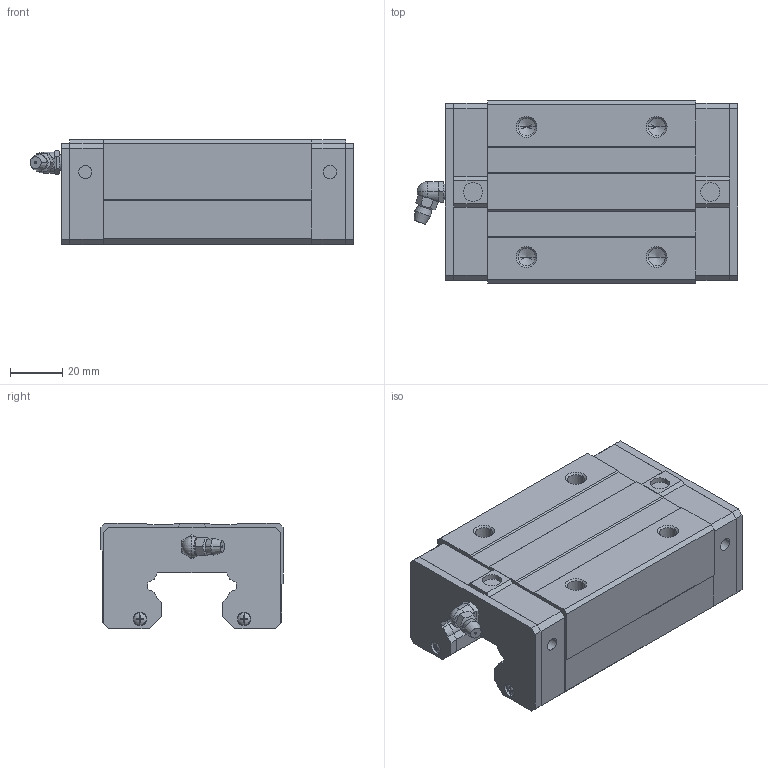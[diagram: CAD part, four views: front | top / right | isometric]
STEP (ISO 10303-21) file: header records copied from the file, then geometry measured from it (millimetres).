
FILE_DESCRIPTION(('starvars output'),'2;1');
FILE_NAME('cv20190625225512000064748.stp','22:55:12 2019/06/25',( 'Thomas Industrial Network Germany GmbH'),( 'Thomas Industrial Network Germany GmbH'),'unknown preprocess','ACIS' ,'unknown authorization');
FILE_SCHEMA(('CONFIG_CONTROL_DESIGN {UNKNOWN IMPLEMENTATION LEVEL}'));
Length unit declared in the file: millimetre
Products named in the file (10): PRODUCT_ID_2; PRODUCT_ID_3; PRODUCT_ID_4; PRODUCT_ID_5; PRODUCT_ID_6; PRODUCT_ID_7; PRODUCT_ID_8; PRODUCT_ID_9; PRODUCT_ID_10; PRODUCT_ID_11
Bounding box: 124.4 x 70 x 40.5 mm (x, y, z)
Volume: 240118.6 mm3; surface area: 53318.7 mm2
Topology: 10 solids, 10 shells, 379 faces, 962 edges, 612 vertices
Faces by surface type: plane 240, cone 64, cylinder 63, sphere 12
Entity records: 10951 total; most frequent: ORIENTED_EDGE 1900, CARTESIAN_POINT 1789, DIRECTION 1489, EDGE_CURVE 950, VECTOR 613, LINE 613, VERTEX_POINT 612, AXIS2_PLACEMENT_3D 438
